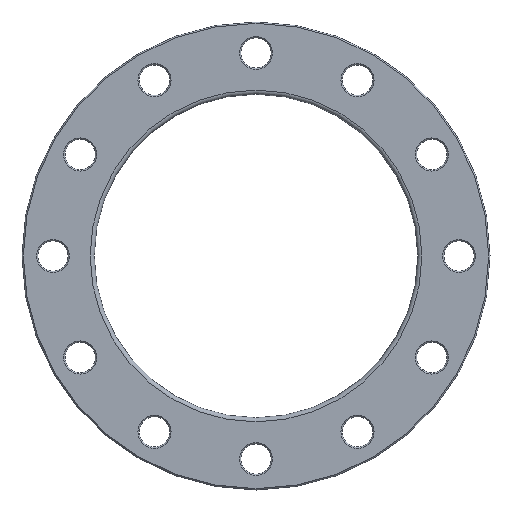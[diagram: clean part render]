
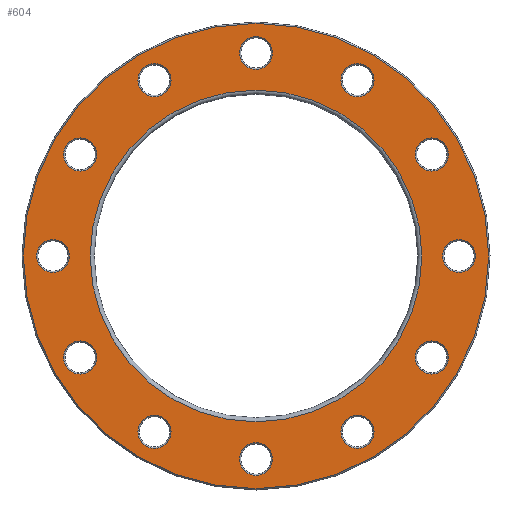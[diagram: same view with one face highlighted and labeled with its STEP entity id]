
A CAD part, front view. The second image highlights one B-rep face of the part: STEP entity #604.
In plain terms, the highlighted planar face has unit normal (0, -1, 0).
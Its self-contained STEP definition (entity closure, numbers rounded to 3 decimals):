
#23=PLANE('',#712);
#134=ORIENTED_EDGE('',*,*,#213,.T.);
#135=ORIENTED_EDGE('',*,*,#214,.T.);
#136=ORIENTED_EDGE('',*,*,#164,.T.);
#137=ORIENTED_EDGE('',*,*,#168,.T.);
#138=ORIENTED_EDGE('',*,*,#172,.T.);
#139=ORIENTED_EDGE('',*,*,#176,.T.);
#140=ORIENTED_EDGE('',*,*,#180,.T.);
#141=ORIENTED_EDGE('',*,*,#184,.T.);
#142=ORIENTED_EDGE('',*,*,#188,.T.);
#143=ORIENTED_EDGE('',*,*,#192,.T.);
#144=ORIENTED_EDGE('',*,*,#196,.T.);
#145=ORIENTED_EDGE('',*,*,#200,.T.);
#146=ORIENTED_EDGE('',*,*,#204,.T.);
#147=ORIENTED_EDGE('',*,*,#215,.T.);
#164=EDGE_CURVE('',#220,#220,#276,.T.);
#168=EDGE_CURVE('',#224,#224,#280,.T.);
#172=EDGE_CURVE('',#228,#228,#284,.T.);
#176=EDGE_CURVE('',#232,#232,#288,.T.);
#180=EDGE_CURVE('',#236,#236,#292,.T.);
#184=EDGE_CURVE('',#240,#240,#296,.T.);
#188=EDGE_CURVE('',#244,#244,#300,.T.);
#192=EDGE_CURVE('',#248,#248,#304,.T.);
#196=EDGE_CURVE('',#252,#252,#308,.T.);
#200=EDGE_CURVE('',#256,#256,#312,.T.);
#204=EDGE_CURVE('',#260,#260,#316,.T.);
#213=EDGE_CURVE('',#269,#269,#325,.F.);
#214=EDGE_CURVE('',#270,#270,#326,.T.);
#215=EDGE_CURVE('',#271,#271,#327,.T.);
#220=VERTEX_POINT('',#935);
#224=VERTEX_POINT('',#946);
#228=VERTEX_POINT('',#957);
#232=VERTEX_POINT('',#968);
#236=VERTEX_POINT('',#979);
#240=VERTEX_POINT('',#990);
#244=VERTEX_POINT('',#1001);
#248=VERTEX_POINT('',#1012);
#252=VERTEX_POINT('',#1023);
#256=VERTEX_POINT('',#1034);
#260=VERTEX_POINT('',#1045);
#269=VERTEX_POINT('',#1068);
#270=VERTEX_POINT('',#1070);
#271=VERTEX_POINT('',#1072);
#276=CIRCLE('',#629,12.);
#280=CIRCLE('',#636,12.);
#284=CIRCLE('',#643,12.);
#288=CIRCLE('',#650,12.);
#292=CIRCLE('',#657,12.);
#296=CIRCLE('',#664,12.);
#300=CIRCLE('',#671,12.);
#304=CIRCLE('',#678,12.);
#308=CIRCLE('',#685,12.);
#312=CIRCLE('',#692,12.);
#316=CIRCLE('',#699,12.);
#325=CIRCLE('',#713,169.);
#326=CIRCLE('',#714,120.5);
#327=CIRCLE('',#715,12.);
#414=EDGE_LOOP('',(#134));
#415=EDGE_LOOP('',(#135));
#416=EDGE_LOOP('',(#136));
#417=EDGE_LOOP('',(#137));
#418=EDGE_LOOP('',(#138));
#419=EDGE_LOOP('',(#139));
#420=EDGE_LOOP('',(#140));
#421=EDGE_LOOP('',(#141));
#422=EDGE_LOOP('',(#142));
#423=EDGE_LOOP('',(#143));
#424=EDGE_LOOP('',(#144));
#425=EDGE_LOOP('',(#145));
#426=EDGE_LOOP('',(#146));
#427=EDGE_LOOP('',(#147));
#526=FACE_BOUND('',#414,.T.);
#527=FACE_BOUND('',#415,.T.);
#528=FACE_BOUND('',#416,.T.);
#529=FACE_BOUND('',#417,.T.);
#530=FACE_BOUND('',#418,.T.);
#531=FACE_BOUND('',#419,.T.);
#532=FACE_BOUND('',#420,.T.);
#533=FACE_BOUND('',#421,.T.);
#534=FACE_BOUND('',#422,.T.);
#535=FACE_BOUND('',#423,.T.);
#536=FACE_BOUND('',#424,.T.);
#537=FACE_BOUND('',#425,.T.);
#538=FACE_BOUND('',#426,.T.);
#539=FACE_BOUND('',#427,.T.);
#604=ADVANCED_FACE('',(#526,#527,#528,#529,#530,#531,#532,#533,#534,#535,
#536,#537,#538,#539),#23,.F.);
#629=AXIS2_PLACEMENT_3D('',#934,#735,#736);
#636=AXIS2_PLACEMENT_3D('',#945,#749,#750);
#643=AXIS2_PLACEMENT_3D('',#956,#763,#764);
#650=AXIS2_PLACEMENT_3D('',#967,#777,#778);
#657=AXIS2_PLACEMENT_3D('',#978,#791,#792);
#664=AXIS2_PLACEMENT_3D('',#989,#805,#806);
#671=AXIS2_PLACEMENT_3D('',#1000,#819,#820);
#678=AXIS2_PLACEMENT_3D('',#1011,#833,#834);
#685=AXIS2_PLACEMENT_3D('',#1022,#847,#848);
#692=AXIS2_PLACEMENT_3D('',#1033,#861,#862);
#699=AXIS2_PLACEMENT_3D('',#1044,#875,#876);
#712=AXIS2_PLACEMENT_3D('',#1066,#901,#902);
#713=AXIS2_PLACEMENT_3D('',#1067,#903,#904);
#714=AXIS2_PLACEMENT_3D('',#1069,#905,#906);
#715=AXIS2_PLACEMENT_3D('',#1071,#907,#908);
#735=DIRECTION('',(0.,1.,0.));
#736=DIRECTION('',(0.866,0.,0.5));
#749=DIRECTION('',(0.,1.,0.));
#750=DIRECTION('',(0.5,0.,0.866));
#763=DIRECTION('',(0.,1.,0.));
#764=DIRECTION('',(0.,0.,1.));
#777=DIRECTION('',(0.,1.,0.));
#778=DIRECTION('',(-0.5,0.,0.866));
#791=DIRECTION('',(0.,1.,0.));
#792=DIRECTION('',(-0.866,0.,0.5));
#805=DIRECTION('',(0.,1.,0.));
#806=DIRECTION('',(-1.,0.,0.));
#819=DIRECTION('',(0.,1.,0.));
#820=DIRECTION('',(-0.866,0.,-0.5));
#833=DIRECTION('',(0.,1.,0.));
#834=DIRECTION('',(-0.5,0.,-0.866));
#847=DIRECTION('',(0.,1.,0.));
#848=DIRECTION('',(0.,0.,-1.));
#861=DIRECTION('',(0.,1.,0.));
#862=DIRECTION('',(0.5,0.,-0.866));
#875=DIRECTION('',(0.,1.,0.));
#876=DIRECTION('',(0.866,0.,-0.5));
#901=DIRECTION('',(0.,1.,0.));
#902=DIRECTION('',(0.,0.,1.));
#903=DIRECTION('',(0.,1.,0.));
#904=DIRECTION('',(0.,0.,1.));
#905=DIRECTION('',(0.,1.,0.));
#906=DIRECTION('',(0.,0.,1.));
#907=DIRECTION('',(0.,1.,0.));
#908=DIRECTION('',(1.,0.,0.));
#934=CARTESIAN_POINT('',(-73.75,0.,127.739));
#935=CARTESIAN_POINT('',(-63.358,0.,133.739));
#945=CARTESIAN_POINT('',(-127.739,0.,73.75));
#946=CARTESIAN_POINT('',(-121.739,0.,84.142));
#956=CARTESIAN_POINT('',(-147.5,0.,0.));
#957=CARTESIAN_POINT('',(-147.5,0.,12.));
#967=CARTESIAN_POINT('',(-127.739,0.,-73.75));
#968=CARTESIAN_POINT('',(-133.739,0.,-63.358));
#978=CARTESIAN_POINT('',(-73.75,0.,-127.739));
#979=CARTESIAN_POINT('',(-84.142,0.,-121.739));
#989=CARTESIAN_POINT('',(0.,0.,-147.5));
#990=CARTESIAN_POINT('',(-12.,0.,-147.5));
#1000=CARTESIAN_POINT('',(73.75,0.,-127.739));
#1001=CARTESIAN_POINT('',(63.358,0.,-133.739));
#1011=CARTESIAN_POINT('',(127.739,0.,-73.75));
#1012=CARTESIAN_POINT('',(121.739,0.,-84.142));
#1022=CARTESIAN_POINT('',(147.5,0.,0.));
#1023=CARTESIAN_POINT('',(147.5,0.,-12.));
#1033=CARTESIAN_POINT('',(127.739,0.,73.75));
#1034=CARTESIAN_POINT('',(133.739,0.,63.358));
#1044=CARTESIAN_POINT('',(73.75,0.,127.739));
#1045=CARTESIAN_POINT('',(84.142,0.,121.739));
#1066=CARTESIAN_POINT('',(0.,0.,0.));
#1067=CARTESIAN_POINT('',(0.,0.,0.));
#1068=CARTESIAN_POINT('',(0.,0.,169.));
#1069=CARTESIAN_POINT('',(0.,0.,0.));
#1070=CARTESIAN_POINT('',(0.,0.,120.5));
#1071=CARTESIAN_POINT('',(0.,0.,147.5));
#1072=CARTESIAN_POINT('',(12.,0.,147.5));
